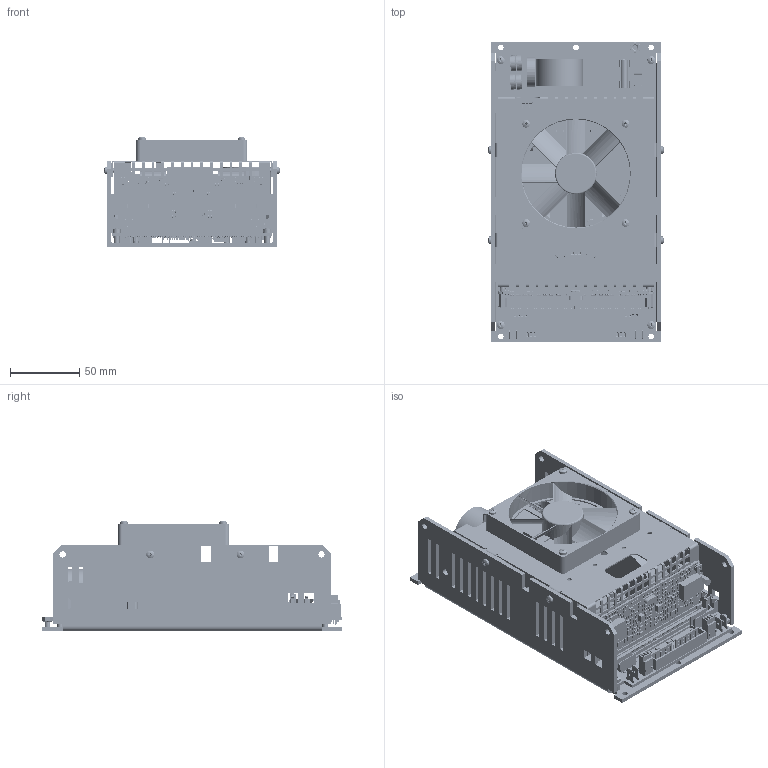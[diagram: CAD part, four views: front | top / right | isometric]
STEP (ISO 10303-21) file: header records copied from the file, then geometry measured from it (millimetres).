
FILE_DESCRIPTION((''),'2;1');
FILE_NAME('POWERSOFT_DM_PFC2_AMP_MECH3D_ASM','2012-05-29T',('carlo'),(''),'PRO/ENGINEER BY PARAMETRIC TECHNOLOGY CORPORATION, 2010480','PRO/ENGINEER BY PARAMETRIC TECHNOLOGY CORPORATION, 2010480','');
FILE_SCHEMA(('CONFIG_CONTROL_DESIGN'));
Products named in the file (1765): FAN; BOARD-15966; EXTRUDED-9908; 703708256_ASM; EXTRUDED-1-9926; 703698016_ASM; R31-13124_ASM; EXTRUDED-2-9917; 480963328_ASM; EXTRUDED-3-9746; 480963200_ASM; L202_ASM; L102_ASM; R444_ASM; R344_ASM; EXTRUDED-4-9755; 474480912_ASM; EXTRUDED-5-9881; 474480784_ASM; C249_ASM; C248_ASM; C149_ASM; C148_ASM; R424_ASM; R29-10647_ASM; R28-12022_ASM; R422_ASM; R322_ASM; SOT143_0_0001; D107_ASM; R27-10302_ASM; C19-11420_ASM; R419_ASM; EXTRUDED-6-9971; 480965632_ASM; EXTRUDED-7-9615; 480967552_ASM; R418_ASM; R319_ASM; R318_ASM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
Assembly tree (5720 placements, depth 8):
  POWERSOFT_DM_PFC2_AMP_MECH3D_ASM
    DIGIMOD_PFC2_ASM
      FAN
      DGMCNTRL17_STEP_UNICO_ASM
        FREE-MODELS-18547_ASM
          DGMCNTRLPLUS13_3D_ASM
            BOARD-15966
            R31-13124_ASM
              703708256_ASM
                EXTRUDED-9908
              703698016_ASM  x2
                EXTRUDED-1-9926
            L202_ASM
              480963328_ASM  x2
                EXTRUDED-2-9917
              480963200_ASM
                EXTRUDED-3-9746
            L102_ASM
              480963200_ASM
                EXTRUDED-3-9746
              480963328_ASM  x2
                EXTRUDED-2-9917
            R444_ASM
              480963328_ASM  x2
                EXTRUDED-2-9917
              480963200_ASM
                EXTRUDED-3-9746
            R344_ASM
              480963200_ASM
                EXTRUDED-3-9746
              480963328_ASM  x2
                EXTRUDED-2-9917
            C249_ASM
              474480912_ASM
                EXTRUDED-4-9755
              474480784_ASM  x2
                EXTRUDED-5-9881
            C248_ASM
              474480784_ASM  x2
                EXTRUDED-5-9881
              474480912_ASM
                EXTRUDED-4-9755
            C149_ASM
              474480912_ASM
                EXTRUDED-4-9755
              474480784_ASM  x2
                EXTRUDED-5-9881
            C148_ASM
              474480784_ASM  x2
                EXTRUDED-5-9881
              474480912_ASM
                EXTRUDED-4-9755
            R424_ASM
              480963328_ASM  x2
                EXTRUDED-2-9917
              480963200_ASM
                EXTRUDED-3-9746
            R29-10647_ASM
              480963200_ASM
                EXTRUDED-3-9746
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Bounding box: 126.71 x 216.06 x 79.35 mm (x, y, z)
Volume: 639165 mm3; surface area: 430597.1 mm2
Topology: 4311 solids, 4315 shells, 39896 faces, 89560 edges, 58886 vertices
Faces by surface type: plane 34444, cylinder 4912, sphere 246, torus 206, cone 88
Entity records: 316050 total; most frequent: DIRECTION 62579, CARTESIAN_POINT 53073, ORIENTED_EDGE 37730, AXIS2_PLACEMENT_3D 23405, EDGE_CURVE 18867, VECTOR 15769, LINE 15769, VERTEX_POINT 12463
